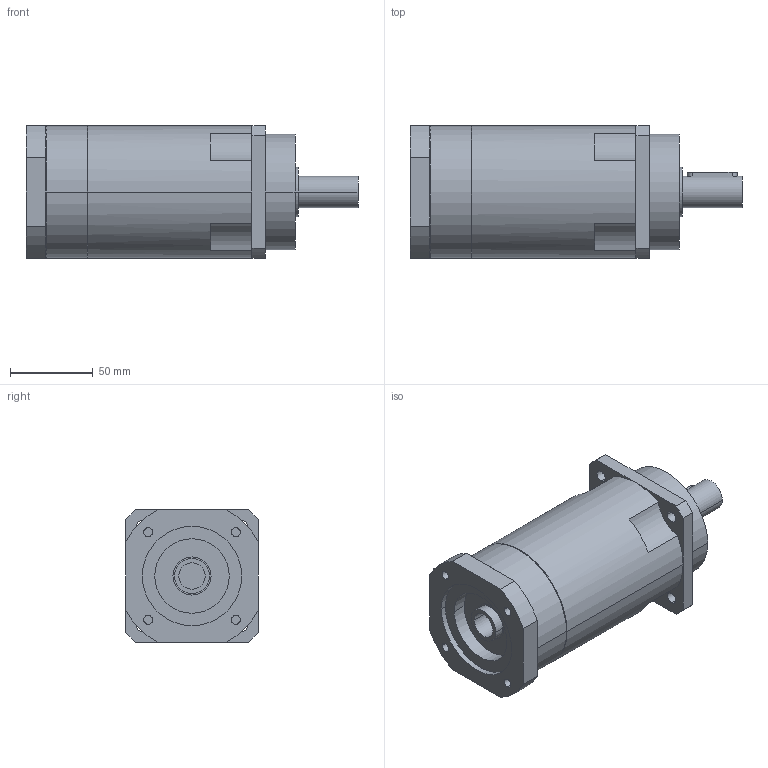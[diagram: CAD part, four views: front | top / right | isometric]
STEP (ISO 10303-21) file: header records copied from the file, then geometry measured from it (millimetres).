
FILE_DESCRIPTION(('CoCreate Modeling STEP Export'),'2;1');
FILE_NAME('GPR100_ig-48-64-80-100-120-144-180-216_19_B5_15.87_P03.stp','2014-08-26T11:55:31',(''),(''),'CoCreate Modeling STEP processor for AP214 (Solid Model)','CoCreate Modeling 16.00C 25-Feb-2009 (C) Parametric Technology GmbH','');
FILE_SCHEMA(('AUTOMOTIVE_DESIGN { 1 0 10303 214 1 1 1 1 }'));
Length unit declared in the file: millimetre
Products named in the file (2): GPR100_ig-48-64-80-100-120-144-180-216_19_B5_15.87_P03
Assembly tree (1 placements, depth 2):
  GPR100_ig-48-64-80-100-120-144-180-216_19_B5_15.87_P03
    GPR100_ig-48-64-80-100-120-144-180-216_19_B5_15.87_P03
Bounding box: 200.4 x 80 x 80 mm (x, y, z)
Volume: 786572.9 mm3; surface area: 64664.3 mm2
Topology: 1 solids, 1 shells, 105 faces, 297 edges, 203 vertices
Faces by surface type: cylinder 60, plane 39, cone 6
Entity records: 3135 total; most frequent: CARTESIAN_POINT 641, ORIENTED_EDGE 590, DIRECTION 436, EDGE_CURVE 295, VERTEX_POINT 203, AXIS2_PLACEMENT_3D 166, EDGE_LOOP 132, FACE_OUTER_BOUND 105
